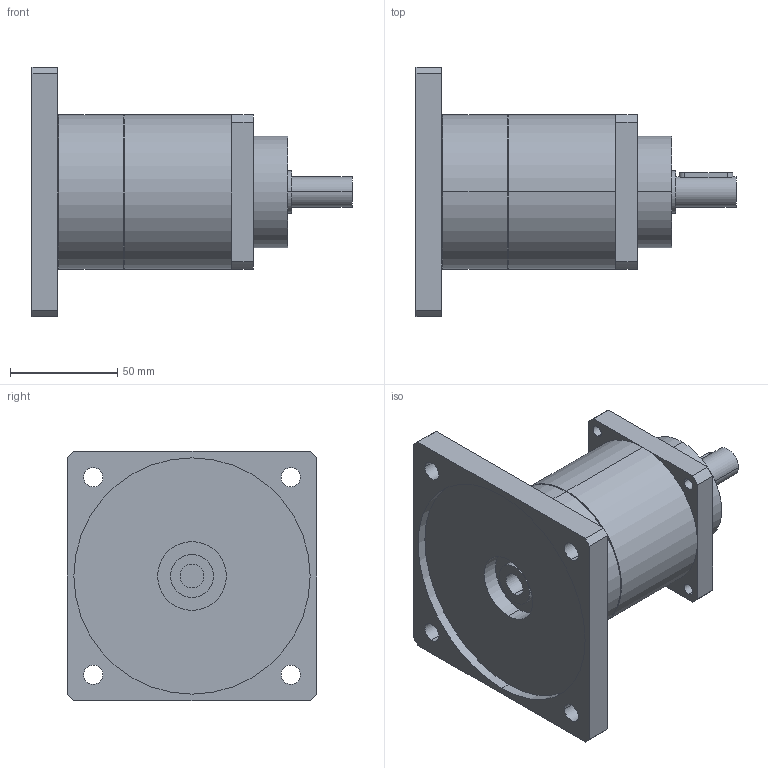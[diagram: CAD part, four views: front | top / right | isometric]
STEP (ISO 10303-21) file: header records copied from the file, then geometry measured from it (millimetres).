
FILE_DESCRIPTION(('CoCreate Modeling STEP Export'),'2;1');
FILE_NAME('GPT75_ig-9-12-16-20-25-28-35-40-50-70-100_14_B5T_11_P09.stp','2014-08-27T13:34:19',(''),(''),'CoCreate Modeling STEP processor for AP214 (Solid Model)','CoCreate Modeling 16.00C 25-Feb-2009 (C) Parametric Technology GmbH','');
FILE_SCHEMA(('AUTOMOTIVE_DESIGN { 1 0 10303 214 1 1 1 1 }'));
Length unit declared in the file: millimetre
Products named in the file (2): GPT75_ig-9-12-16-20-25-28-35-40-50-70-100_14_B5T_11_P09
Assembly tree (1 placements, depth 2):
  GPT75_ig-9-12-16-20-25-28-35-40-50-70-100_14_B5T_11_P09
    GPT75_ig-9-12-16-20-25-28-35-40-50-70-100_14_B5T_11_P09
Bounding box: 149 x 116 x 116 mm (x, y, z)
Volume: 526809.3 mm3; surface area: 65253.5 mm2
Topology: 1 solids, 1 shells, 77 faces, 194 edges, 129 vertices
Faces by surface type: cylinder 46, plane 27, cone 4
Entity records: 2484 total; most frequent: CARTESIAN_POINT 719, ORIENTED_EDGE 388, DIRECTION 320, EDGE_CURVE 194, VERTEX_POINT 129, AXIS2_PLACEMENT_3D 118, EDGE_LOOP 103, VECTOR 84
